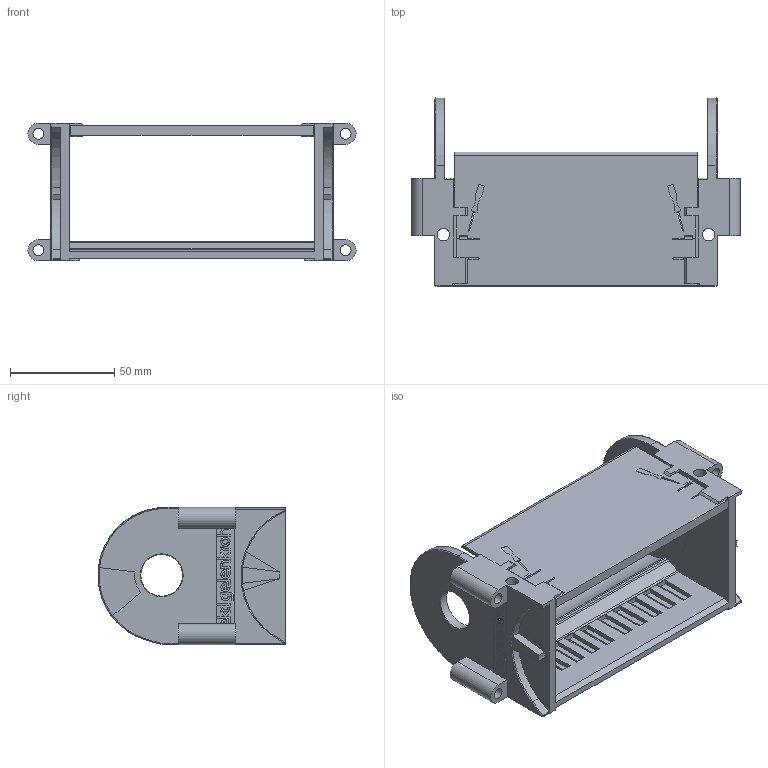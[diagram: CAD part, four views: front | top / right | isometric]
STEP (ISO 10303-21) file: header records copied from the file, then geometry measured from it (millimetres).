
FILE_DESCRIPTION((''),'2;1');
FILE_NAME('C:\Uebbing\PARAMETERKETTEN\KOLIBRI\Kol_65_135_5\KOLIBRI 65_135_5_SFA_Bohrung.stp','2011-11-02T15:14:11',('Uebbing'),(''),'Autodesk Inventor 10','Autodesk Inventor 10','');
FILE_SCHEMA(('AUTOMOTIVE_DESIGN { 1 0 10303 214 1 1 1 1 }'));
Length unit declared in the file: millimetre
Products named in the file (3): KOLIBRI 65_135_5_SFA_Bohrung; Kol_65_135_5 SFA Bohrung; Kol_65_135_5 Klappdeckel gesägt 01
Assembly tree (2 placements, depth 2):
  KOLIBRI 65_135_5_SFA_Bohrung
    Kol_65_135_5 SFA Bohrung
    Kol_65_135_5 Klappdeckel gesägt 01
Bounding box: 157 x 89.94 x 65.7 mm (x, y, z)
Volume: 96798.5 mm3; surface area: 68815 mm2
Topology: 2 solids, 2 shells, 605 faces, 1681 edges, 1082 vertices
Faces by surface type: plane 271, bspline 217, cylinder 102, torus 11, cone 3, sphere 1
Full cylindrical faces by diameter (mm): 2.514 x1, 4 x3, 4.414 x1, 5.2 x4, 6 x1, 20 x1
Entity records: 20396 total; most frequent: CARTESIAN_POINT 5364, ORIENTED_EDGE 3304, DIRECTION 2765, EDGE_CURVE 1652, VECTOR 1265, LINE 1265, VERTEX_POINT 1075, AXIS2_PLACEMENT_3D 750
